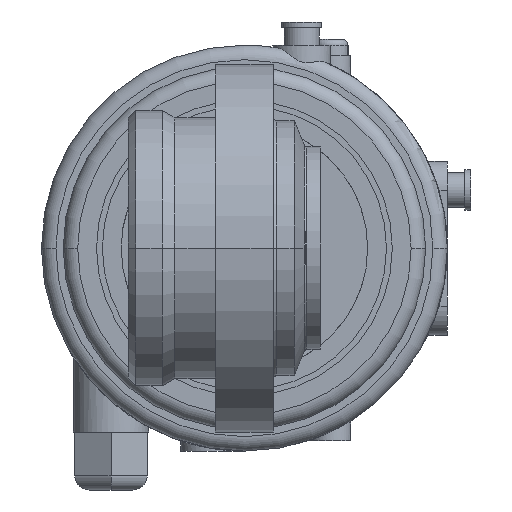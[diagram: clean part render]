
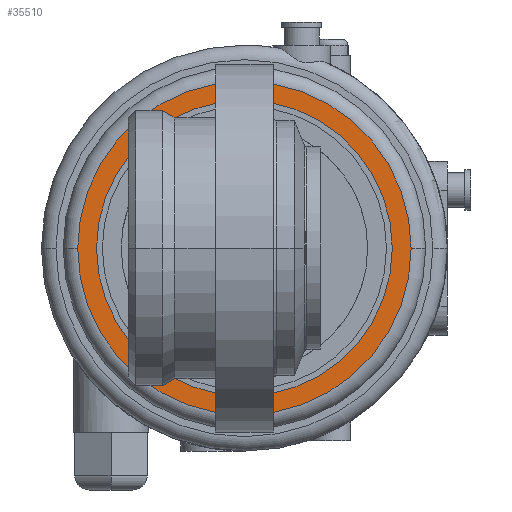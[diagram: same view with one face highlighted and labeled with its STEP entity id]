
A CAD part, front view. The second image highlights one B-rep face of the part: STEP entity #35510.
In plain terms, the highlighted planar face has unit normal (0, -1, 0).
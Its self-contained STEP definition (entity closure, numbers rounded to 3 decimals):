
#34090=CARTESIAN_POINT('',(51.,6.224,0.));
#34100=VERTEX_POINT('',#34090);
#34260=CARTESIAN_POINT('',(-51.,6.224,0.));
#34270=VERTEX_POINT('',#34260);
#34300=CARTESIAN_POINT('',(0.,6.224,0.));
#34310=DIRECTION('',(0.,1.,0.));
#34320=DIRECTION('',(-1.,0.,0.));
#34330=AXIS2_PLACEMENT_3D('',#34300,#34310,#34320);
#34340=CIRCLE('',#34330,51.);
#34350=EDGE_CURVE('',#34270,#34100,#34340,.T.);
#34520=CARTESIAN_POINT('',(57.5,6.224,0.));
#34530=VERTEX_POINT('',#34520);
#34560=CARTESIAN_POINT('',(0.,6.224,0.));
#34570=DIRECTION('',(0.,1.,0.));
#34580=DIRECTION('',(0.,0.,1.));
#34590=AXIS2_PLACEMENT_3D('',#34560,#34570,#34580);
#34600=CIRCLE('',#34590,57.5);
#34610=CARTESIAN_POINT('',(-57.5,6.224,0.));
#34620=VERTEX_POINT('',#34610);
#34630=EDGE_CURVE('',#34620,#34530,#34600,.T.);
#35360=CARTESIAN_POINT('',(0.,6.224,0.));
#35370=DIRECTION('',(0.,1.,0.));
#35380=DIRECTION('',(0.,0.,1.));
#35390=AXIS2_PLACEMENT_3D('',#35360,#35370,#35380);
#35400=PLANE('',#35390);
#35410=EDGE_CURVE('',#34100,#34270,#34340,.T.);
#35420=ORIENTED_EDGE('',*,*,#35410,.T.);
#35430=ORIENTED_EDGE('',*,*,#34350,.T.);
#35440=EDGE_LOOP('',(#35430,#35420));
#35450=FACE_BOUND('',#35440,.T.);
#35460=ORIENTED_EDGE('',*,*,#34630,.F.);
#35470=EDGE_CURVE('',#34530,#34620,#34600,.T.);
#35480=ORIENTED_EDGE('',*,*,#35470,.F.);
#35490=EDGE_LOOP('',(#35480,#35460));
#35500=FACE_OUTER_BOUND('',#35490,.T.);
#35510=ADVANCED_FACE('',(#35450,#35500),#35400,.F.);
